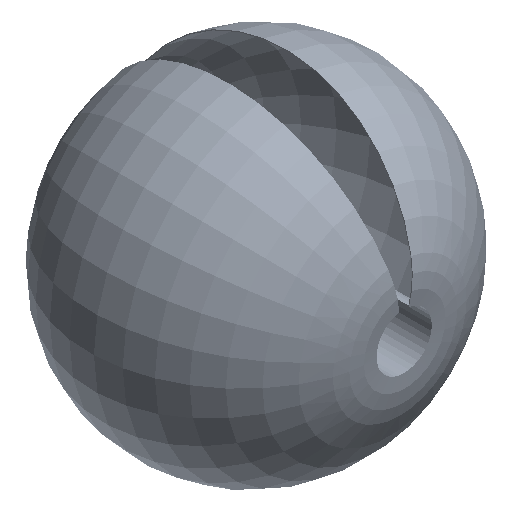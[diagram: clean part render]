
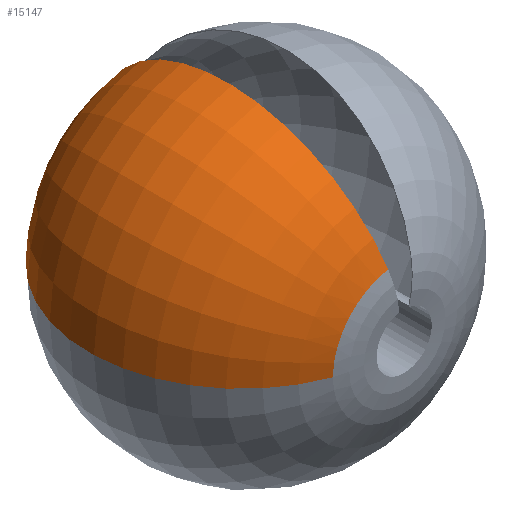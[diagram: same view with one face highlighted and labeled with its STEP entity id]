
A CAD part, isometric view. The second image highlights one B-rep face of the part: STEP entity #15147.
In plain terms, the highlighted toroidal (fillet/blend) face has major radius 180 mm and minor radius 1880.8 mm.
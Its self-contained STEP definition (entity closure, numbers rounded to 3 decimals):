
#15147 = ADVANCED_FACE ( 'NONE', ( #299771 ), #147169, .T. ) ;
#35539 = CIRCLE ( 'NONE', #51781, 1880.8 ) ;
#51781 = AXIS2_PLACEMENT_3D ( 'NONE', #418558, #425952, #383049 ) ;
#55715 = EDGE_LOOP ( 'NONE', ( #405362, #500293, #454609 ) ) ;
#119799 = EDGE_CURVE ( 'NONE', #402421, #435075, #386011, .T. ) ;
#137579 = DIRECTION ( 'NONE',  ( 0., 0., -1. ) ) ;
#139646 = DIRECTION ( 'NONE',  ( -0.985, 0., -0.174 ) ) ;
#142171 = CARTESIAN_POINT ( 'NONE',  ( -177.265, 437., -31.257 ) ) ;
#147169 = TOROIDAL_SURFACE ( 'NONE', #446711, 180., 1880.8 ) ;
#192112 = CIRCLE ( 'NONE', #305515, 1880.8 ) ;
#194426 = VERTEX_POINT ( 'NONE', #407811 ) ;
#216358 = CARTESIAN_POINT ( 'NONE',  ( -810.764, -1330.374, -142.96 ) ) ;
#251681 = DIRECTION ( 'NONE',  ( 0., -1., 0. ) ) ;
#254175 = CARTESIAN_POINT ( 'NONE',  ( 0., 437., 0. ) ) ;
#299771 = FACE_OUTER_BOUND ( 'NONE', #55715, .T. ) ;
#305515 = AXIS2_PLACEMENT_3D ( 'NONE', #142171, #406015, #139646 ) ;
#318179 = EDGE_CURVE ( 'NONE', #402421, #194426, #192112, .T. ) ;
#334970 = CARTESIAN_POINT ( 'NONE',  ( 0., -1330.374, 0. ) ) ;
#367963 = DIRECTION ( 'NONE',  ( 0., 0., -1. ) ) ;
#383049 = DIRECTION ( 'NONE',  ( 0., 0., 1. ) ) ;
#386011 = CIRCLE ( 'NONE', #474857, 823.271 ) ;
#400875 = EDGE_CURVE ( 'NONE', #194426, #435075, #35539, .T. ) ;
#402421 = VERTEX_POINT ( 'NONE', #216358 ) ;
#405362 = ORIENTED_EDGE ( 'NONE', *, *, #318179, .T. ) ;
#406015 = DIRECTION ( 'NONE',  ( 0.174, 0., -0.985 ) ) ;
#407811 = CARTESIAN_POINT ( 'NONE',  ( 0., 2309.167, 0. ) ) ;
#418558 = CARTESIAN_POINT ( 'NONE',  ( 0., 437., -180. ) ) ;
#425952 = DIRECTION ( 'NONE',  ( -1., 0., 0. ) ) ;
#435075 = VERTEX_POINT ( 'NONE', #438436 ) ;
#438436 = CARTESIAN_POINT ( 'NONE',  ( 0., -1330.374, -823.271 ) ) ;
#446299 = DIRECTION ( 'NONE',  ( 0., -1., 0. ) ) ;
#446711 = AXIS2_PLACEMENT_3D ( 'NONE', #254175, #251681, #137579 ) ;
#454609 = ORIENTED_EDGE ( 'NONE', *, *, #119799, .F. ) ;
#474857 = AXIS2_PLACEMENT_3D ( 'NONE', #334970, #446299, #367963 ) ;
#500293 = ORIENTED_EDGE ( 'NONE', *, *, #400875, .T. ) ;
